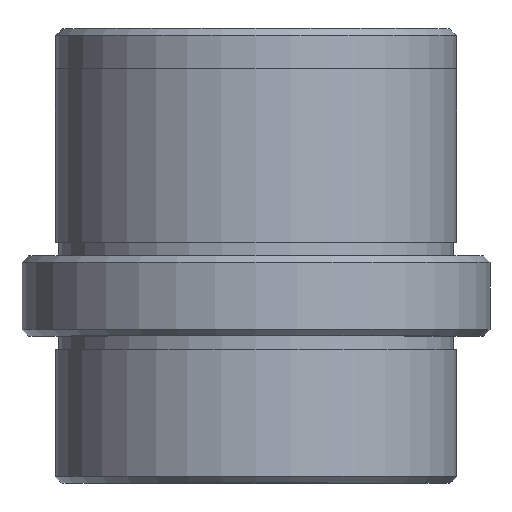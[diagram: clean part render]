
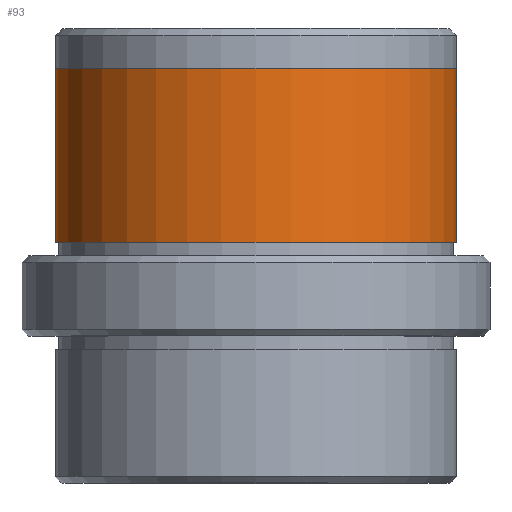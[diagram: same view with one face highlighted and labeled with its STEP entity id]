
A CAD part, top view. The second image highlights one B-rep face of the part: STEP entity #93.
In plain terms, the highlighted cylindrical face has radius 15 mm (diameter 30 mm), a full revolution.
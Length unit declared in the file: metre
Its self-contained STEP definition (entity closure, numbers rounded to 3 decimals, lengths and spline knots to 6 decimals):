
#93 = ADVANCED_FACE( '', ( #147, #148 ), #149, .T. );
#147 = FACE_OUTER_BOUND( '', #207, .T. );
#148 = FACE_OUTER_BOUND( '', #208, .T. );
#149 = CYLINDRICAL_SURFACE( '', #209, 0.015 );
#207 = EDGE_LOOP( '', ( #299 ) );
#208 = EDGE_LOOP( '', ( #300 ) );
#209 = AXIS2_PLACEMENT_3D( '', #301, #302, #303 );
#299 = ORIENTED_EDGE( '', *, *, #336, .T. );
#300 = ORIENTED_EDGE( '', *, *, #335, .F. );
#301 = CARTESIAN_POINT( '', ( 0., 0., 0. ) );
#302 = DIRECTION( '', ( 0., 1., 0. ) );
#303 = DIRECTION( '', ( 0., 0., -1. ) );
#335 = EDGE_CURVE( '', #371, #371, #372, .T. );
#336 = EDGE_CURVE( '', #373, #373, #374, .T. );
#371 = VERTEX_POINT( '', #411 );
#372 = CIRCLE( '', #412, 0.015 );
#373 = VERTEX_POINT( '', #413 );
#374 = CIRCLE( '', #414, 0.015 );
#411 = CARTESIAN_POINT( '', ( 0., 0.007, -0.015 ) );
#412 = AXIS2_PLACEMENT_3D( '', #467, #468, #469 );
#413 = CARTESIAN_POINT( '', ( 0., 0.02, -0.015 ) );
#414 = AXIS2_PLACEMENT_3D( '', #470, #471, #472 );
#467 = CARTESIAN_POINT( '', ( 0., 0.007, 0. ) );
#468 = DIRECTION( '', ( 0., -1., 0. ) );
#469 = DIRECTION( '', ( 0., 0., -1. ) );
#470 = CARTESIAN_POINT( '', ( 0., 0.02, 0. ) );
#471 = DIRECTION( '', ( 0., -1., 0. ) );
#472 = DIRECTION( '', ( 0., 0., -1. ) );
